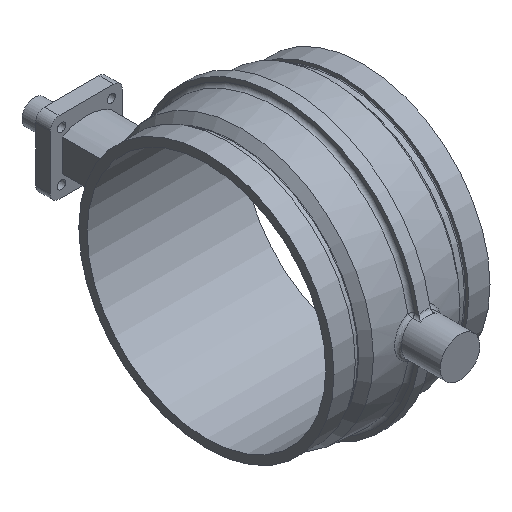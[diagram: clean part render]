
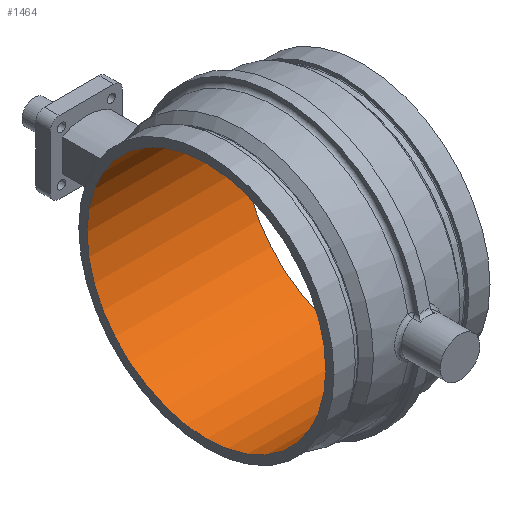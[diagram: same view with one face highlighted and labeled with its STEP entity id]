
A CAD part, isometric view. The second image highlights one B-rep face of the part: STEP entity #1464.
In plain terms, the highlighted cylindrical face has radius 213.804 mm (diameter 427.609 mm), a full revolution.
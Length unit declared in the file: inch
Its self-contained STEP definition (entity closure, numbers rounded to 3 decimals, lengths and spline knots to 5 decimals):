
#176=LINE('',#3090,#230);
#230=VECTOR('',#2042,8.4175);
#257=CYLINDRICAL_SURFACE('',#1651,8.4175);
#333=FACE_OUTER_BOUND('',#423,.T.);
#423=EDGE_LOOP('',(#1291,#1292,#1293,#1294,#1295,#1296));
#524=CIRCLE('',#1649,8.4175);
#525=CIRCLE('',#1650,8.4175);
#526=CIRCLE('',#1652,8.4175);
#527=CIRCLE('',#1653,8.4175);
#664=VERTEX_POINT('',#3084);
#665=VERTEX_POINT('',#3085);
#666=VERTEX_POINT('',#3089);
#667=VERTEX_POINT('',#3091);
#874=EDGE_CURVE('',#664,#665,#524,.T.);
#875=EDGE_CURVE('',#665,#664,#525,.T.);
#876=EDGE_CURVE('',#665,#666,#176,.T.);
#877=EDGE_CURVE('',#667,#666,#526,.T.);
#878=EDGE_CURVE('',#666,#667,#527,.T.);
#1291=ORIENTED_EDGE('',*,*,#874,.T.);
#1292=ORIENTED_EDGE('',*,*,#876,.T.);
#1293=ORIENTED_EDGE('',*,*,#877,.F.);
#1294=ORIENTED_EDGE('',*,*,#878,.F.);
#1295=ORIENTED_EDGE('',*,*,#876,.F.);
#1296=ORIENTED_EDGE('',*,*,#875,.T.);
#1464=ADVANCED_FACE('',(#333),#257,.F.);
#1649=AXIS2_PLACEMENT_3D('',#3086,#2036,#2037);
#1650=AXIS2_PLACEMENT_3D('',#3087,#2038,#2039);
#1651=AXIS2_PLACEMENT_3D('',#3088,#2040,#2041);
#1652=AXIS2_PLACEMENT_3D('',#3092,#2043,#2044);
#1653=AXIS2_PLACEMENT_3D('',#3093,#2045,#2046);
#2036=DIRECTION('center_axis',(1.,0.,0.));
#2037=DIRECTION('ref_axis',(0.,1.,0.));
#2038=DIRECTION('center_axis',(1.,0.,0.));
#2039=DIRECTION('ref_axis',(0.,1.,0.));
#2040=DIRECTION('center_axis',(1.,0.,0.));
#2041=DIRECTION('ref_axis',(0.,1.,0.));
#2042=DIRECTION('',(-1.,0.,0.));
#2043=DIRECTION('center_axis',(1.,0.,0.));
#2044=DIRECTION('ref_axis',(0.,1.,0.));
#2045=DIRECTION('center_axis',(1.,0.,0.));
#2046=DIRECTION('ref_axis',(0.,1.,0.));
#3084=CARTESIAN_POINT('',(5.5,8.4175,0.));
#3085=CARTESIAN_POINT('',(5.5,-8.4175,0.));
#3086=CARTESIAN_POINT('Origin',(5.5,0.,0.));
#3087=CARTESIAN_POINT('Origin',(5.5,0.,0.));
#3088=CARTESIAN_POINT('Origin',(0.,0.,0.));
#3089=CARTESIAN_POINT('',(-5.5,-8.4175,0.));
#3090=CARTESIAN_POINT('',(0.,-8.4175,0.));
#3091=CARTESIAN_POINT('',(-5.5,8.4175,0.));
#3092=CARTESIAN_POINT('Origin',(-5.5,0.,0.));
#3093=CARTESIAN_POINT('Origin',(-5.5,0.,0.));
